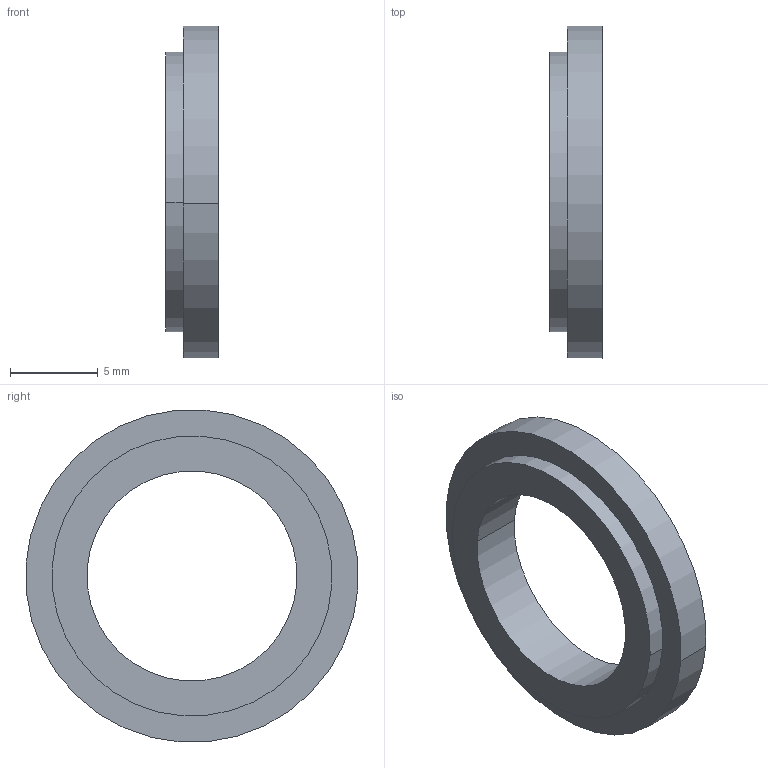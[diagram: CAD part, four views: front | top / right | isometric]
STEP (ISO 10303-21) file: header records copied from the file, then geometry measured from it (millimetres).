
FILE_DESCRIPTION( ('This file contains a STEP AP42 implementation' ,'as created by ZW3D STEP Interface translator.') ,'2;1' );
FILE_NAME( 'zkj-粣杶.stp' ,'23 9 3.214434', (''), ('ZWCAD Software Co.'), 'Version 1.0', 'ZW3D to STEP translator', '' );
FILE_SCHEMA(('AUTOMOTIVE_DESIGN { 1 0 10303 214 1 1 1 1 }'));
Length unit declared in the file: millimetre
Products named in the file (2): 0; zkj-粣杶
Bounding box: 3 x 18.95 x 18.95 mm (x, y, z)
Volume: 428.8 mm3; surface area: 623.6 mm2
Topology: 1 solids, 1 shells, 9 faces, 18 edges, 12 vertices
Faces by surface type: cylinder 6, plane 3
Entity records: 287 total; most frequent: DIRECTION 50, CARTESIAN_POINT 40, ORIENTED_EDGE 36, AXIS2_PLACEMENT_3D 22, EDGE_CURVE 18, VERTEX_POINT 12, CIRCLE 12, EDGE_LOOP 12
